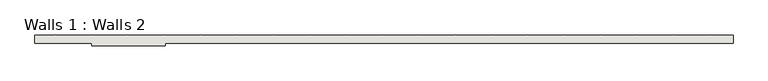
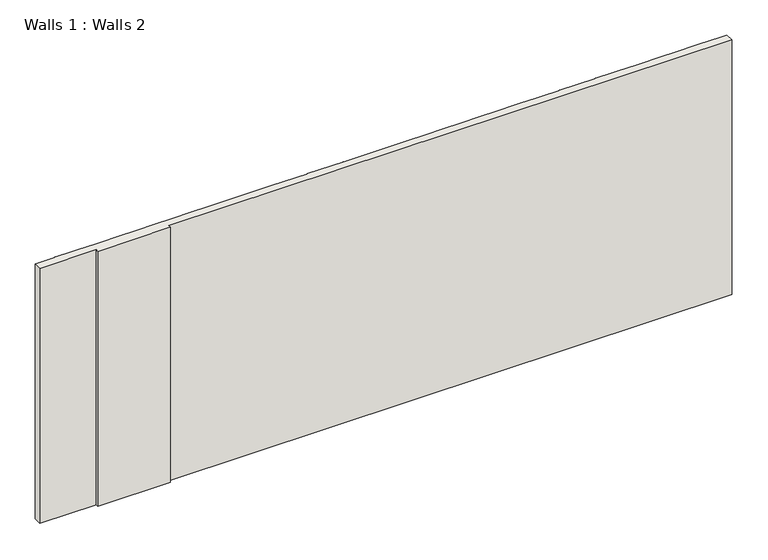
"""IFC4 building model written with IfcOpenShell, lengths in millimetres: wall geometry, Walls 1 : Walls 2."""

import ifcopenshell
import ifcopenshell.guid

model = None  # the IFC model being written
_history = None  # IfcOwnerHistory: only IFC2X3 demands one
_inside = {}  # id of a spatial element -> (the spatial element, [elements in it])
_under = {}  # id of a project, library or spatial element -> (it, [spatial elements below it])
_declared = {}  # id of a project -> (the project, [libraries it declares])
_typed = {}  # id of a type object -> (the type object, [elements of that type])
_made_of = {}  # id of a material, layer set ... -> (it, [elements and type objects made of it])


def new_model(schema):
    """Start an empty IFC model of exactly this schema.

    Asked for "IFC4X3", IfcOpenShell would pick the latest addendum, in which some entities
    have other attributes; the version numbers below select the first issue.
    IFC2X3 requires an IfcOwnerHistory on every rooted entity: one is made here for all.
    """
    global model, _history
    if schema == "IFC4X3":
        model = ifcopenshell.file(schema_version=(4, 3, 0, 0))
    else:
        model = ifcopenshell.file(schema=schema)
    _inside.clear()
    _under.clear()
    _declared.clear()
    _typed.clear()
    _made_of.clear()
    _history = None
    if model.schema == "IFC2X3":
        org = make("IfcOrganization", Name="unknown")
        user = make(
            "IfcPersonAndOrganization",
            ThePerson=make("IfcPerson", FamilyName="unknown"),
            TheOrganization=org,
        )
        app = make(
            "IfcApplication",
            ApplicationDeveloper=org,
            Version="unknown",
            ApplicationFullName="unknown",
            ApplicationIdentifier="unknown",
        )
        _history = make(
            "IfcOwnerHistory",
            OwningUser=user,
            OwningApplication=app,
            ChangeAction="ADDED",
            CreationDate=0,
        )
    return model


def make(cls, **values):
    """One entity of the class cls with the attributes given. An attribute that is None is left unset."""
    return model.create_entity(
        cls, **{name: value for name, value in values.items() if value is not None}
    )


def rooted(cls, **values):
    """An entity with a GlobalId (a new one), such as an element, a storey or a relation."""
    return make(cls, GlobalId=ifcopenshell.guid.new(), OwnerHistory=_history, **values)


def si_unit(unit_type, name, prefix=None):
    """IfcSIUnit, for example si_unit("LENGTHUNIT", "METRE", prefix="MILLI")."""
    return make("IfcSIUnit", UnitType=unit_type, Prefix=prefix, Name=name)


def assignment(units):
    """IfcUnitAssignment: the units of a project."""
    return None if units is None else make("IfcUnitAssignment", Units=units)


def point(xyz):
    """IfcCartesianPoint."""
    return None if xyz is None else make("IfcCartesianPoint", Coordinates=xyz)


def direction(xyz):
    """IfcDirection."""
    return None if xyz is None else make("IfcDirection", DirectionRatios=xyz)


def frame(location, z_axis=None, x_axis=None):
    """IfcAxis2Placement3D, a coordinate frame: its origin and axes. An axis left out is left unset."""
    return make(
        "IfcAxis2Placement3D",
        Location=point(location),
        Axis=direction(z_axis),
        RefDirection=direction(x_axis),
    )


def origin():
    """The frame at (0, 0, 0) with its axes left unset."""
    return frame((0.0, 0.0, 0.0))


def place(relative_to, where):
    """IfcLocalPlacement: puts the frame where relative to a parent placement (None: the world)."""
    return make(
        "IfcLocalPlacement", PlacementRelTo=relative_to, RelativePlacement=where
    )


def context(
    kind, dimensions, precision=None, world=None, true_north=None, identifier=None
):
    """IfcGeometricRepresentationContext, for example the 3D "Model" context."""
    return make(
        "IfcGeometricRepresentationContext",
        ContextIdentifier=identifier,
        ContextType=kind,
        CoordinateSpaceDimension=dimensions,
        Precision=precision,
        WorldCoordinateSystem=world,
        TrueNorth=true_north,
    )


def project(units=None, contexts=None):
    """IfcProject with its units and contexts."""
    return rooted(
        "IfcProject",
        Name="project",
        RepresentationContexts=contexts,
        UnitsInContext=assignment(units),
    )


def spatial(cls, under=None, at=None, **own):
    """A site, building, storey or space (cls), placed at a placement, below another one or the project."""
    s = rooted(cls, ObjectPlacement=at, **own)
    if under is not None:
        _under.setdefault(under.id(), (under, []))[1].append(s)
    return s


def polyline(points):
    """IfcPolyline through the points."""
    return make("IfcPolyline", Points=[point(p) for p in points])


def outline(outer, holes=None, kind="AREA"):
    """IfcArbitraryClosedProfileDef: a profile drawn as a closed curve; with holes, ...WithVoids."""
    if holes is None:
        return make("IfcArbitraryClosedProfileDef", ProfileType=kind, OuterCurve=outer)
    return make(
        "IfcArbitraryProfileDefWithVoids",
        ProfileType=kind,
        OuterCurve=outer,
        InnerCurves=holes,
    )


def extrude(swept, where, along, depth):
    """IfcExtrudedAreaSolid: the profile swept, set in the frame where, extruded along a direction by depth."""
    return make(
        "IfcExtrudedAreaSolid",
        SweptArea=swept,
        Position=where,
        ExtrudedDirection=direction(along),
        Depth=depth,
    )


def shape(context_of_items, identifier, shape_type, items):
    """IfcShapeRepresentation: the items that make up one representation, for example the "Body"."""
    return make(
        "IfcShapeRepresentation",
        ContextOfItems=context_of_items,
        RepresentationIdentifier=identifier,
        RepresentationType=shape_type,
        Items=items,
    )


def source(mapping_origin, context_of_items, identifier, shape_type, items):
    """IfcRepresentationMap: a shape defined once, which mapped items show again and again."""
    return make(
        "IfcRepresentationMap",
        MappingOrigin=mapping_origin,
        MappedRepresentation=shape(context_of_items, identifier, shape_type, items),
    )


def transform(
    local_origin,
    x_axis=None,
    y_axis=None,
    z_axis=None,
    scale=None,
    scale2=None,
    scale3=None,
    uniform=True,
):
    """IfcCartesianTransformationOperator3D, or its non-uniform kind. x_axis, y_axis, z_axis: its Axis1, 2, 3."""
    if uniform:
        return make(
            "IfcCartesianTransformationOperator3D",
            Axis1=direction(x_axis),
            Axis2=direction(y_axis),
            LocalOrigin=point(local_origin),
            Scale=scale,
            Axis3=direction(z_axis),
        )
    return make(
        "IfcCartesianTransformationOperator3DnonUniform",
        Axis1=direction(x_axis),
        Axis2=direction(y_axis),
        LocalOrigin=point(local_origin),
        Scale=scale,
        Axis3=direction(z_axis),
        Scale2=scale2,
        Scale3=scale3,
    )


def mapped(mapping_source, mapping_target):
    """IfcMappedItem: shows the shape of a source again, moved by a transform."""
    return make(
        "IfcMappedItem", MappingSource=mapping_source, MappingTarget=mapping_target
    )


def made_of(thing, what):
    """Note that an element or type object is made of a material, layer set ...; save() writes the relation."""
    if what is not None:
        _made_of.setdefault(what.id(), (what, []))[1].append(thing)
    return thing


def element(
    cls,
    number,
    at=None,
    inside=None,
    cuts=None,
    type_object=None,
    material=None,
    context=None,
    identifier="Body",
    shape_type=None,
    held_by="IfcProductDefinitionShape",
    body=None,
    shapes=None,
    **own,
):
    """One element of the class cls, such as IfcWall. Its Tag is "e" and its number.

    at: its placement. inside: the storey or other place that contains it. cuts: it is an
    opening in that element (IfcRelVoidsElement). A single representation is given by context,
    identifier, shape_type and body (its items); several are given by shapes. held_by: the class
    of the entity that holds the representations. save() writes the other relations.
    """
    e = rooted(cls, Tag="e%d" % number, ObjectPlacement=at, **own)
    if body is not None:
        shapes = [shape(context, identifier, shape_type, body)]
    if shapes is not None:
        e.Representation = make(held_by, Representations=shapes)
    if inside is not None:
        _inside.setdefault(inside.id(), (inside, []))[1].append(e)
    if cuts is not None:
        rooted(
            "IfcRelVoidsElement", RelatingBuildingElement=cuts, RelatedOpeningElement=e
        )
    if type_object is not None:
        _typed.setdefault(type_object.id(), (type_object, []))[1].append(e)
    return made_of(e, material)


def aggregate(whole, parts):
    """IfcRelAggregates: a whole, such as a stair, and the parts it consists of."""
    return rooted("IfcRelAggregates", RelatingObject=whole, RelatedObjects=parts)


def save(model, path):
    """Write the relations noted so far, then the file.

    IfcRelAggregates (storeys below a building ...), IfcRelContainedInSpatialStructure (elements
    in a storey), IfcRelDefinesByType, IfcRelAssociatesMaterial and IfcRelDeclares: one each for
    every whole, place, type object, material and project.
    """
    for whole, parts in _under.values():
        aggregate(whole, parts)
    for where, things in _inside.values():
        rooted(
            "IfcRelContainedInSpatialStructure",
            RelatedElements=things,
            RelatingStructure=where,
        )
    for kind, things in _typed.values():
        rooted("IfcRelDefinesByType", RelatedObjects=things, RelatingType=kind)
    for what, things in _made_of.values():
        rooted("IfcRelAssociatesMaterial", RelatedObjects=things, RelatingMaterial=what)
    for by, libraries in _declared.values():
        rooted("IfcRelDeclares", RelatingContext=by, RelatedDefinitions=libraries)
    model.write(path)


def walls_1_walls_2_7fcae3fa(model_context):
    return source(origin(), model_context, "Body", "SweptSolid", [
        extrude(outline(polyline([(-2799.6542211, -101.0452169), (-2799.6542211, -130.4452707), (-3599.6542211, -130.4452707), (-3599.6542211, -101.0452169), (-4222.1108023, -101.0452169), (-4222.1108023, -14.0452169), (-4004.0308023, -14.0452169), (-4002.1508023, -12.1652169), (-4000.2708023, -14.0452169), (-3607.1508023, -14.0452169), (-3605.2708023, -12.1652169), (-3603.3908023, -14.0452169), (-3210.2708023, -14.0452169), (-3208.3908023, -12.1652169), (-3206.5108023, -14.0452169), (-2813.3908023, -14.0452169), (-2811.5108023, -12.1652169), (-2809.6308023, -14.0452169), (-2416.5108023, -14.0452169), (-2414.6308023, -12.1652169), (-2412.7508023, -14.0452169), (-2019.6308023, -14.0452169), (-2017.7508023, -12.1652169), (-2015.8708023, -14.0452169), (-1622.7508023, -14.0452169), (-1620.8708023, -12.1652169), (-1618.9908023, -14.0452169), (-1225.8708023, -14.0452169), (-1223.9908023, -12.1652169), (-1222.1108023, -14.0452169), (-828.9908023, -14.0452169), (-827.1108023, -12.1652169), (-825.2308023, -14.0452169), (-432.1108023, -14.0452169), (-430.2308023, -12.1652169), (-428.3508023, -14.0452169), (-35.2308023, -14.0452169), (-33.3508023, -12.1652169), (-31.4708023, -14.0452169), (361.6491977, -14.0452169), (363.5291977, -12.1652169), (365.4091977, -14.0452169), (758.5291977, -14.0452169), (760.4091977, -12.1652169), (762.2891977, -14.0452169), (1155.4091977, -14.0452169), (1157.2891977, -12.1652169), (1159.1691977, -14.0452169), (1552.2891977, -14.0452169), (1554.1691977, -12.1652169), (1556.0491977, -14.0452169), (1949.1691977, -14.0452169), (1951.0491977, -12.1652169), (1952.9291977, -14.0452169), (2346.0491977, -14.0452169), (2347.9291977, -12.1652169), (2349.8091977, -14.0452169), (2742.9291977, -14.0452169), (2744.8091977, -12.1652169), (2746.6891977, -14.0452169), (3139.8091977, -14.0452169), (3141.6891977, -12.1652169), (3143.5691977, -14.0452169), (3398.5161968, -14.0452169), (3398.5161968, -101.0452169), (-2799.6542211, -101.0452169)])), frame((0.0, 0.0, 340.0), z_axis=(0.0, 0.0, 1.0), x_axis=(1.0, 0.0, 0.0)), (0.0, 0.0, 1.0), 2971.0),
    ])


if __name__ == "__main__":
    model = new_model("IFC4")
    model_context = context("Model", 3, world=origin())
    ifc_project = project(units=[si_unit("LENGTHUNIT", "METRE", prefix="MILLI")], contexts=[model_context])
    site = spatial("IfcSite", under=ifc_project)
    building = spatial("IfcBuilding", under=site)
    placement = place(None, origin())
    walls_1_walls_2_shape = walls_1_walls_2_7fcae3fa(model_context)
    element("IfcWall", 1, ObjectType="Walls 1 : Walls 2", at=placement, inside=building, context=model_context, shape_type="MappedRepresentation", body=[
        mapped(walls_1_walls_2_shape, transform((0.0, 0.0, 0.0), x_axis=(1.0, 0.0, 0.0), y_axis=(0.0, 1.0, 0.0), z_axis=(0.0, 0.0, 1.0))),
    ])
    save(model, "model.ifc")
